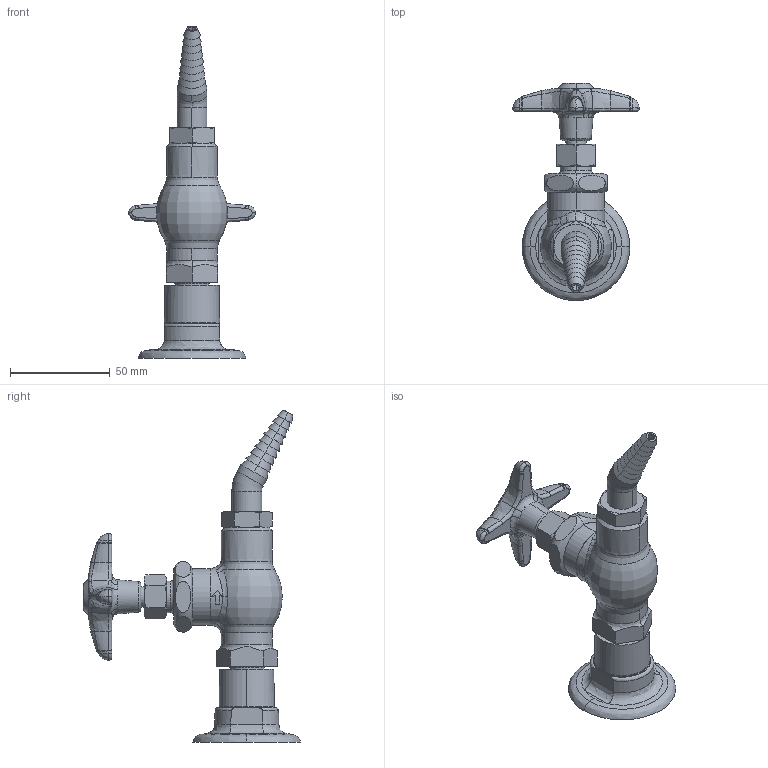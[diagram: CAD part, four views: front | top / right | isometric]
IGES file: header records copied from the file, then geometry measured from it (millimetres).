
Start section:  PTC IGES file: LGF1-A21D-50.igs
Global section: file name: LGF1-A21D-50.igs; native system: Creo Parametric by PTC Inc.; preprocessor: 2014500; author: usch_engrender; organization: Unknown; date: 20160108.100318; units: inch
Bounding box: 63.42 x 108.64 x 166.12 mm (x, y, z)
Volume: 94111.6 mm3; surface area: 35870.5 mm2
Topology: 1 solids, 5 shells, 434 faces, 987 edges, 591 vertices
Faces by surface type: bspline 245, revolution 189
